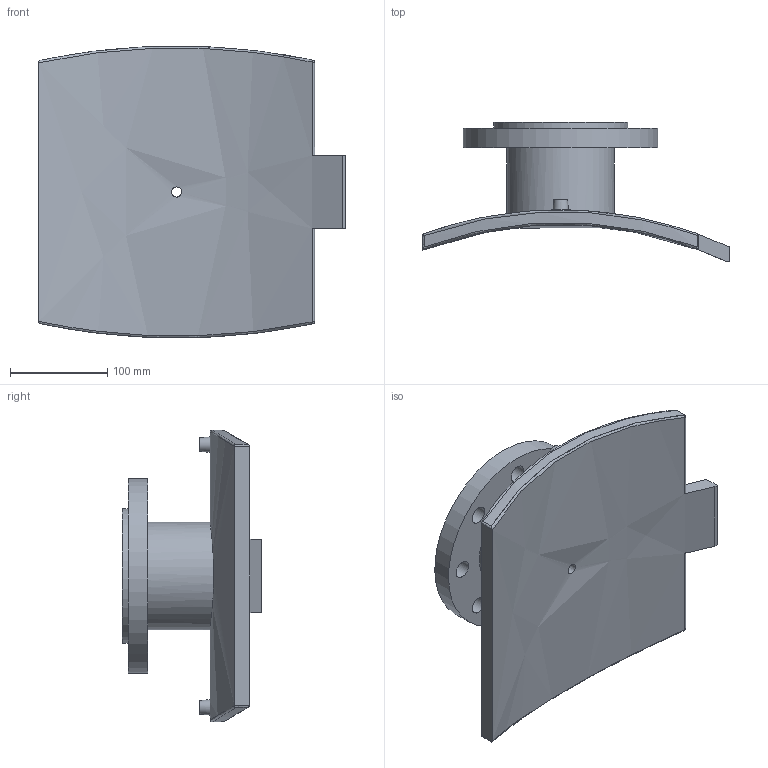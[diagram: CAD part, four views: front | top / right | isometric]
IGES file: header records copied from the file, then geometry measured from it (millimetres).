
Global section: file name: 495904710080T; native system: Autodesk Inventor 2019; preprocessor: unknown; author: KIM; date: 20240403.210027; units: millimetre
Bounding box: 315 x 142.89 x 299.55 mm (x, y, z)
Volume: 2149052.1 mm3; surface area: 307861.9 mm2
Topology: 1 solids, 1 shells, 58 faces, 151 edges, 118 vertices
Faces by surface type: bspline 58
